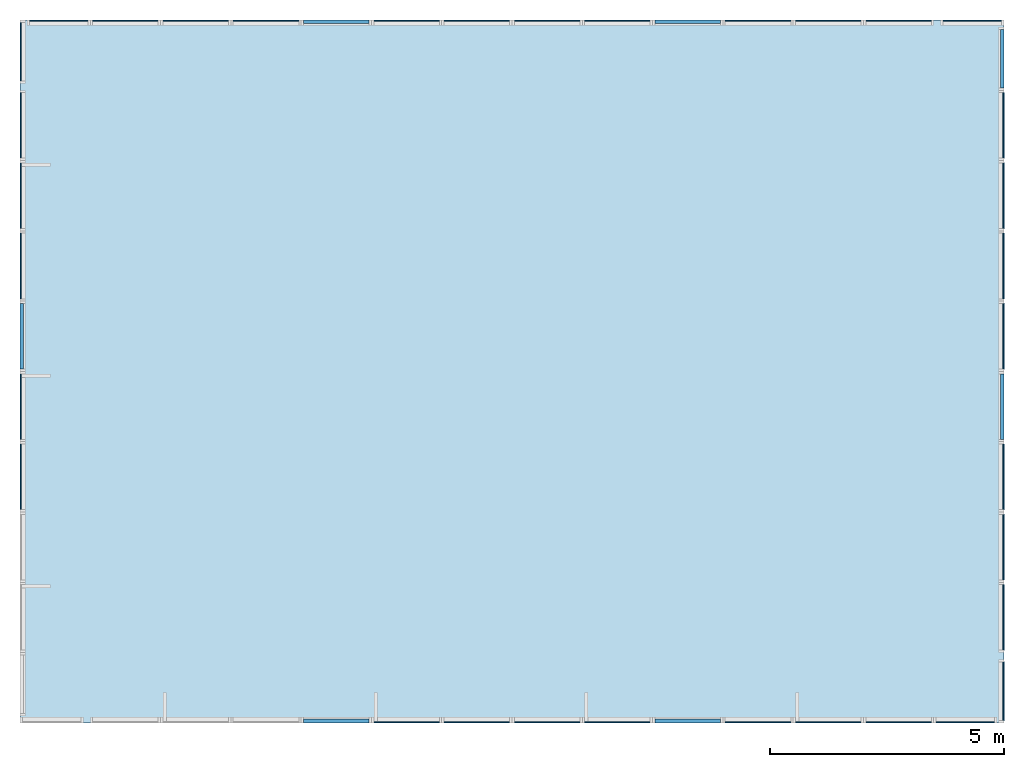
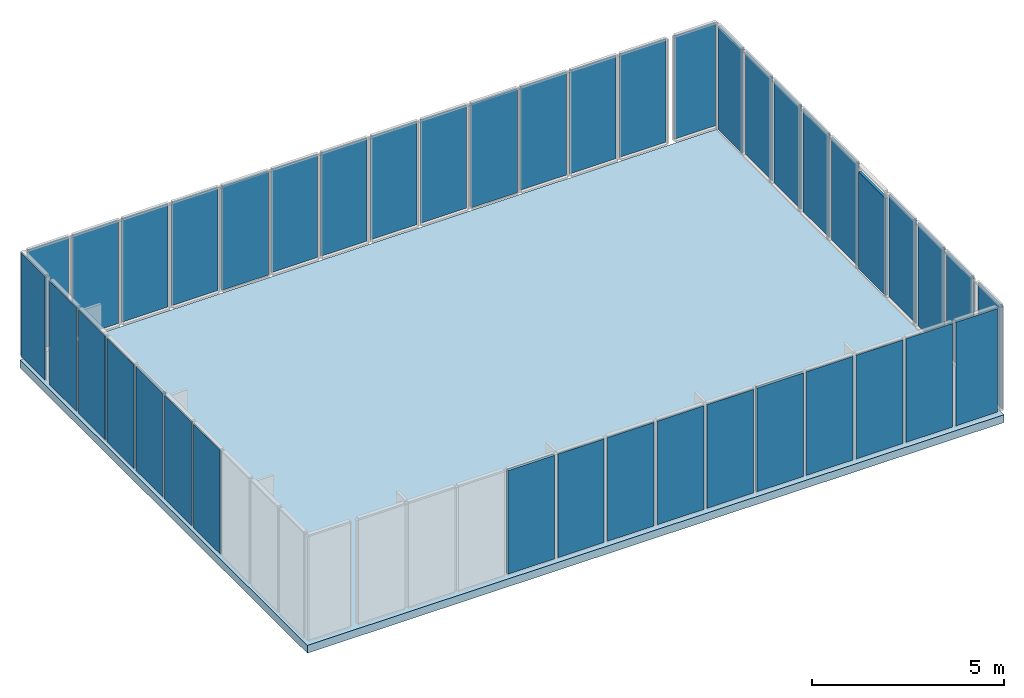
# One storey, part 3 of 3: 41 plates, 1 slab.
"""IFC4 building model written with IfcOpenShell, lengths in metres."""

from ifc_helpers import new_model, si_unit, frame, origin_with_axes, place, context, subcontext, project, spatial, indexed_curve, outline, extrude, material, element, save


model = new_model("IFC4")

# Units and contexts
model_context = context("Model", 3, precision=1e-05, world=origin_with_axes())
body_context = subcontext(model_context, "Body", "Model", "MODEL_VIEW")
ifc_project = project(units=[si_unit("AREAUNIT", "SQUARE_METRE"), si_unit("VOLUMEUNIT", "CUBIC_METRE"), si_unit("LENGTHUNIT", "METRE")], contexts=[model_context])

# Site, building, storey
site = spatial("IfcSite", under=ifc_project, Name="Synthetic Site")
building = spatial("IfcBuilding", under=site, Name="Complex Tower")
storey_placement = place(None, frame((0.0, 0.0, 19.8), z_axis=(0.0, 0.0, 1.0), x_axis=(1.0, 0.0, 0.0)))
storey = spatial("IfcBuildingStorey", under=building, at=storey_placement, Name="L06", Elevation=19.8)

# Plates
ifc_material_1 = material(Name="Aluminium")
plate_1_placement = place(storey_placement, frame((9.05, 1.5, 0.14999999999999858), z_axis=(0.0, 0.0, 1.0), x_axis=(1.0, 0.0, 0.0)))
element("IfcPlate", 1, at=plate_1_placement, inside=storey, material=ifc_material_1, Name="CT-L06-S-005", PredefinedType="SHEET", context=body_context, shape_type="SweptSolid", body=[
    extrude(outline(indexed_curve([(0.0, 0.0), (0.0, 0.08), (1.4, 0.08), (1.4, 0.0), (0.0, 0.0)], self_intersect=False)), origin_with_axes(), (0.0, 0.0, 1.0), 3.3000000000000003),
])
ifc_material_2 = material(Name="Glass")
for number, where, z_axis, x_axis, name in (
    (2, (10.55, 1.5, 0.14999999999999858), (0.0, 0.0, 1.0), (1.0, 0.0, 0.0), "CT-L06-S-006"),
    (3, (12.05, 1.5, 0.14999999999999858), (0.0, 0.0, 1.0), (1.0, 0.0, 0.0), "CT-L06-S-007"),
    (4, (13.55, 1.5, 0.14999999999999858), (0.0, 0.0, 1.0), (1.0, 0.0, 0.0), "CT-L06-S-008"),
    (5, (15.05, 1.5, 0.14999999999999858), (0.0, 0.0, 1.0), (1.0, 0.0, 0.0), "CT-L06-S-009"),
):
    element("IfcPlate", number, at=place(storey_placement, frame(where, z_axis=z_axis, x_axis=x_axis)), inside=storey, material=ifc_material_2, Name=name, PredefinedType="CURTAIN_PANEL", context=body_context, shape_type="SweptSolid", body=[
        extrude(outline(indexed_curve([(0.0, 0.0), (0.0, 0.028), (1.4, 0.028), (1.4, 0.0), (0.0, 0.0)], self_intersect=False)), origin_with_axes(), (0.0, 0.0, 1.0), 3.3000000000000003),
    ])
plate_2_placement = place(storey_placement, frame((16.55, 1.5, 0.14999999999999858), z_axis=(0.0, 0.0, 1.0), x_axis=(1.0, 0.0, 0.0)))
element("IfcPlate", 6, at=plate_2_placement, inside=storey, material=ifc_material_1, Name="CT-L06-S-010", PredefinedType="SHEET", context=body_context, shape_type="SweptSolid", body=[
    extrude(outline(indexed_curve([(0.0, 0.0), (0.0, 0.08), (1.4, 0.08), (1.4, 0.0), (0.0, 0.0)], self_intersect=False)), origin_with_axes(), (0.0, 0.0, 1.0), 3.3000000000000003),
])
for number, where, z_axis, x_axis, name in (
    (7, (18.05, 1.5, 0.14999999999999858), (0.0, 0.0, 1.0), (1.0, 0.0, 0.0), "CT-L06-S-011"),
    (8, (19.55, 1.5, 0.14999999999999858), (0.0, 0.0, 1.0), (1.0, 0.0, 0.0), "CT-L06-S-012"),
    (9, (21.05, 1.5, 0.14999999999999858), (0.0, 0.0, 1.0), (1.0, 0.0, 0.0), "CT-L06-S-013"),
):
    element("IfcPlate", number, at=place(storey_placement, frame(where, z_axis=z_axis, x_axis=x_axis)), inside=storey, material=ifc_material_2, Name=name, PredefinedType="CURTAIN_PANEL", context=body_context, shape_type="SweptSolid", body=[
        extrude(outline(indexed_curve([(0.0, 0.0), (0.0, 0.028), (1.4, 0.028), (1.4, 0.0), (0.0, 0.0)], self_intersect=False)), origin_with_axes(), (0.0, 0.0, 1.0), 3.3000000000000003),
    ])
for number, where, z_axis, x_axis, name in (
    (10, (22.55, 1.5, 0.14999999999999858), (0.0, 0.0, 1.0), (1.0, 0.0, 0.0), "CT-L06-S-014"),
    (11, (24.0, 1.55, 0.14999999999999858), (0.0, 0.0, 1.0), (6.123233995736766e-17, 1.0, 0.0), "CT-L06-E-001"),
):
    element("IfcPlate", number, at=place(storey_placement, frame(where, z_axis=z_axis, x_axis=x_axis)), inside=storey, material=ifc_material_2, Name=name, PredefinedType="CURTAIN_PANEL", context=body_context, shape_type="SweptSolid", body=[
        extrude(outline(indexed_curve([(0.0, 0.0), (0.0, 0.028), (1.25, 0.028), (1.25, 0.0), (0.0, 0.0)], self_intersect=False)), origin_with_axes(), (0.0, 0.0, 1.0), 3.3000000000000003),
    ])
for number, where, z_axis, x_axis, name in (
    (12, (24.0, 3.05, 0.14999999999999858), (0.0, 0.0, 1.0), (6.123233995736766e-17, 1.0, 0.0), "CT-L06-E-002"),
    (13, (24.0, 4.55, 0.14999999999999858), (0.0, 0.0, 1.0), (6.123233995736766e-17, 1.0, 0.0), "CT-L06-E-003"),
    (14, (24.0, 6.05, 0.14999999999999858), (0.0, 0.0, 1.0), (6.123233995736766e-17, 1.0, 0.0), "CT-L06-E-004"),
):
    element("IfcPlate", number, at=place(storey_placement, frame(where, z_axis=z_axis, x_axis=x_axis)), inside=storey, material=ifc_material_2, Name=name, PredefinedType="CURTAIN_PANEL", context=body_context, shape_type="SweptSolid", body=[
        extrude(outline(indexed_curve([(0.0, 0.0), (0.0, 0.028), (1.4, 0.028), (1.4, 0.0), (0.0, 0.0)], self_intersect=False)), origin_with_axes(), (0.0, 0.0, 1.0), 3.3000000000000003),
    ])
plate_3_placement = place(storey_placement, frame((24.0, 7.55, 0.14999999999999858), z_axis=(0.0, 0.0, 1.0), x_axis=(6.123233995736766e-17, 1.0, 0.0)))
element("IfcPlate", 15, at=plate_3_placement, inside=storey, material=ifc_material_1, Name="CT-L06-E-005", PredefinedType="SHEET", context=body_context, shape_type="SweptSolid", body=[
    extrude(outline(indexed_curve([(0.0, 0.0), (0.0, 0.08), (1.4, 0.08), (1.4, 0.0), (0.0, 0.0)], self_intersect=False)), origin_with_axes(), (0.0, 0.0, 1.0), 3.1),
])
for number, where, z_axis, x_axis, name in (
    (16, (24.0, 9.05, 0.14999999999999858), (0.0, 0.0, 1.0), (6.123233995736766e-17, 1.0, 0.0), "CT-L06-E-006"),
    (17, (24.0, 10.55, 0.14999999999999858), (0.0, 0.0, 1.0), (6.123233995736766e-17, 1.0, 0.0), "CT-L06-E-007"),
    (18, (24.0, 12.05, 0.14999999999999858), (0.0, 0.0, 1.0), (6.123233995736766e-17, 1.0, 0.0), "CT-L06-E-008"),
    (19, (24.0, 13.55, 0.14999999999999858), (0.0, 0.0, 1.0), (6.123233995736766e-17, 1.0, 0.0), "CT-L06-E-009"),
):
    element("IfcPlate", number, at=place(storey_placement, frame(where, z_axis=z_axis, x_axis=x_axis)), inside=storey, material=ifc_material_2, Name=name, PredefinedType="CURTAIN_PANEL", context=body_context, shape_type="SweptSolid", body=[
        extrude(outline(indexed_curve([(0.0, 0.0), (0.0, 0.028), (1.4, 0.028), (1.4, 0.0), (0.0, 0.0)], self_intersect=False)), origin_with_axes(), (0.0, 0.0, 1.0), 3.3000000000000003),
    ])
plate_4_placement = place(storey_placement, frame((24.0, 15.05, 0.14999999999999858), z_axis=(0.0, 0.0, 1.0), x_axis=(6.123233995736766e-17, 1.0, 0.0)))
element("IfcPlate", 20, at=plate_4_placement, inside=storey, material=ifc_material_1, Name="CT-L06-E-010", PredefinedType="SHEET", context=body_context, shape_type="SweptSolid", body=[
    extrude(outline(indexed_curve([(0.0, 0.0), (0.0, 0.08), (1.25, 0.08), (1.25, 0.0), (0.0, 0.0)], self_intersect=False)), origin_with_axes(), (0.0, 0.0, 1.0), 3.3000000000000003),
])
plate_5_placement = place(storey_placement, frame((23.95, 16.5, 0.14999999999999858), z_axis=(0.0, 0.0, 1.0), x_axis=(-1.0, 1.2246467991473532e-16, 0.0)))
element("IfcPlate", 21, at=plate_5_placement, inside=storey, material=ifc_material_2, Name="CT-L06-N-001", PredefinedType="CURTAIN_PANEL", context=body_context, shape_type="SweptSolid", body=[
    extrude(outline(indexed_curve([(0.0, 0.0), (0.0, 0.028), (1.25, 0.028), (1.25, 0.0), (0.0, 0.0)], self_intersect=False)), origin_with_axes(), (0.0, 0.0, 1.0), 3.3000000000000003),
])
for number, where, z_axis, x_axis, name in (
    (22, (22.45, 16.5, 0.14999999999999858), (0.0, 0.0, 1.0), (-1.0, 1.2246467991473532e-16, 0.0), "CT-L06-N-002"),
    (23, (20.95, 16.5, 0.14999999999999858), (0.0, 0.0, 1.0), (-1.0, 1.2246467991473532e-16, 0.0), "CT-L06-N-003"),
    (24, (19.45, 16.5, 0.14999999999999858), (0.0, 0.0, 1.0), (-1.0, 1.2246467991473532e-16, 0.0), "CT-L06-N-004"),
):
    element("IfcPlate", number, at=place(storey_placement, frame(where, z_axis=z_axis, x_axis=x_axis)), inside=storey, material=ifc_material_2, Name=name, PredefinedType="CURTAIN_PANEL", context=body_context, shape_type="SweptSolid", body=[
        extrude(outline(indexed_curve([(0.0, 0.0), (0.0, 0.028), (1.4, 0.028), (1.4, 0.0), (0.0, 0.0)], self_intersect=False)), origin_with_axes(), (0.0, 0.0, 1.0), 3.3000000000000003),
    ])
plate_6_placement = place(storey_placement, frame((17.95, 16.5, 0.14999999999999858), z_axis=(0.0, 0.0, 1.0), x_axis=(-1.0, 1.2246467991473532e-16, 0.0)))
element("IfcPlate", 25, at=plate_6_placement, inside=storey, material=ifc_material_1, Name="CT-L06-N-005", PredefinedType="SHEET", context=body_context, shape_type="SweptSolid", body=[
    extrude(outline(indexed_curve([(0.0, 0.0), (0.0, 0.08), (1.4, 0.08), (1.4, 0.0), (0.0, 0.0)], self_intersect=False)), origin_with_axes(), (0.0, 0.0, 1.0), 3.3000000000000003),
])
for number, where, z_axis, x_axis, name in (
    (26, (16.45, 16.5, 0.14999999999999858), (0.0, 0.0, 1.0), (-1.0, 1.2246467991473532e-16, 0.0), "CT-L06-N-006"),
    (27, (14.95, 16.5, 0.14999999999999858), (0.0, 0.0, 1.0), (-1.0, 1.2246467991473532e-16, 0.0), "CT-L06-N-007"),
    (28, (13.45, 16.5, 0.14999999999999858), (0.0, 0.0, 1.0), (-1.0, 1.2246467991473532e-16, 0.0), "CT-L06-N-008"),
    (29, (11.95, 16.5, 0.14999999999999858), (0.0, 0.0, 1.0), (-1.0, 1.2246467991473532e-16, 0.0), "CT-L06-N-009"),
):
    element("IfcPlate", number, at=place(storey_placement, frame(where, z_axis=z_axis, x_axis=x_axis)), inside=storey, material=ifc_material_2, Name=name, PredefinedType="CURTAIN_PANEL", context=body_context, shape_type="SweptSolid", body=[
        extrude(outline(indexed_curve([(0.0, 0.0), (0.0, 0.028), (1.4, 0.028), (1.4, 0.0), (0.0, 0.0)], self_intersect=False)), origin_with_axes(), (0.0, 0.0, 1.0), 3.3000000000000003),
    ])
plate_7_placement = place(storey_placement, frame((10.45, 16.5, 0.14999999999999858), z_axis=(0.0, 0.0, 1.0), x_axis=(-1.0, 1.2246467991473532e-16, 0.0)))
element("IfcPlate", 30, at=plate_7_placement, inside=storey, material=ifc_material_1, Name="CT-L06-N-010", PredefinedType="SHEET", context=body_context, shape_type="SweptSolid", body=[
    extrude(outline(indexed_curve([(0.0, 0.0), (0.0, 0.08), (1.4, 0.08), (1.4, 0.0), (0.0, 0.0)], self_intersect=False)), origin_with_axes(), (0.0, 0.0, 1.0), 3.3000000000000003),
])
for number, where, z_axis, x_axis, name in (
    (31, (8.95, 16.500000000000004, 0.14999999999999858), (0.0, 0.0, 1.0), (-1.0, 1.2246467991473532e-16, 0.0), "CT-L06-N-011"),
    (32, (7.449999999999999, 16.500000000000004, 0.14999999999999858), (0.0, 0.0, 1.0), (-1.0, 1.2246467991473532e-16, 0.0), "CT-L06-N-012"),
    (33, (5.949999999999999, 16.500000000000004, 0.14999999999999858), (0.0, 0.0, 1.0), (-1.0, 1.2246467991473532e-16, 0.0), "CT-L06-N-013"),
):
    element("IfcPlate", number, at=place(storey_placement, frame(where, z_axis=z_axis, x_axis=x_axis)), inside=storey, material=ifc_material_2, Name=name, PredefinedType="CURTAIN_PANEL", context=body_context, shape_type="SweptSolid", body=[
        extrude(outline(indexed_curve([(0.0, 0.0), (0.0, 0.028), (1.4, 0.028), (1.4, 0.0), (0.0, 0.0)], self_intersect=False)), origin_with_axes(), (0.0, 0.0, 1.0), 3.3000000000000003),
    ])
for number, where, z_axis, x_axis, name in (
    (34, (4.449999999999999, 16.500000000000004, 0.14999999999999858), (0.0, 0.0, 1.0), (-1.0, 1.2246467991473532e-16, 0.0), "CT-L06-N-014"),
    (35, (3.0, 16.45, 0.14999999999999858), (0.0, 0.0, 1.0), (-1.8369701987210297e-16, -1.0, 0.0), "CT-L06-W-001"),
):
    element("IfcPlate", number, at=place(storey_placement, frame(where, z_axis=z_axis, x_axis=x_axis)), inside=storey, material=ifc_material_2, Name=name, PredefinedType="CURTAIN_PANEL", context=body_context, shape_type="SweptSolid", body=[
        extrude(outline(indexed_curve([(0.0, 0.0), (0.0, 0.028), (1.25, 0.028), (1.25, 0.0), (0.0, 0.0)], self_intersect=False)), origin_with_axes(), (0.0, 0.0, 1.0), 3.3000000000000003),
    ])
for number, where, z_axis, x_axis, name in (
    (36, (2.9999999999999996, 14.95, 0.14999999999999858), (0.0, 0.0, 1.0), (-1.8369701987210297e-16, -1.0, 0.0), "CT-L06-W-002"),
    (37, (2.9999999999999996, 13.45, 0.14999999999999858), (0.0, 0.0, 1.0), (-1.8369701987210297e-16, -1.0, 0.0), "CT-L06-W-003"),
    (38, (2.999999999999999, 11.95, 0.14999999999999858), (0.0, 0.0, 1.0), (-1.8369701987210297e-16, -1.0, 0.0), "CT-L06-W-004"),
):
    element("IfcPlate", number, at=place(storey_placement, frame(where, z_axis=z_axis, x_axis=x_axis)), inside=storey, material=ifc_material_2, Name=name, PredefinedType="CURTAIN_PANEL", context=body_context, shape_type="SweptSolid", body=[
        extrude(outline(indexed_curve([(0.0, 0.0), (0.0, 0.028), (1.4, 0.028), (1.4, 0.0), (0.0, 0.0)], self_intersect=False)), origin_with_axes(), (0.0, 0.0, 1.0), 3.3000000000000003),
    ])
plate_8_placement = place(storey_placement, frame((2.9999999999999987, 10.45, 0.14999999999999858), z_axis=(0.0, 0.0, 1.0), x_axis=(-1.8369701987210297e-16, -1.0, 0.0)))
element("IfcPlate", 39, at=plate_8_placement, inside=storey, material=ifc_material_1, Name="CT-L06-W-005", PredefinedType="SHEET", context=body_context, shape_type="SweptSolid", body=[
    extrude(outline(indexed_curve([(0.0, 0.0), (0.0, 0.08), (1.4, 0.08), (1.4, 0.0), (0.0, 0.0)], self_intersect=False)), origin_with_axes(), (0.0, 0.0, 1.0), 3.3000000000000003),
])
for number, where, z_axis, x_axis, name in (
    (40, (2.9999999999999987, 8.95, 0.14999999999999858), (0.0, 0.0, 1.0), (-1.8369701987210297e-16, -1.0, 0.0), "CT-L06-W-006"),
    (41, (2.9999999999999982, 7.449999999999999, 0.14999999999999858), (0.0, 0.0, 1.0), (-1.8369701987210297e-16, -1.0, 0.0), "CT-L06-W-007"),
):
    element("IfcPlate", number, at=place(storey_placement, frame(where, z_axis=z_axis, x_axis=x_axis)), inside=storey, material=ifc_material_2, Name=name, PredefinedType="CURTAIN_PANEL", context=body_context, shape_type="SweptSolid", body=[
        extrude(outline(indexed_curve([(0.0, 0.0), (0.0, 0.028), (1.4, 0.028), (1.4, 0.0), (0.0, 0.0)], self_intersect=False)), origin_with_axes(), (0.0, 0.0, 1.0), 3.3000000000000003),
    ])

# Slab
ifc_material_3 = material(Name="Concrete")
slab_placement = place(storey_placement, frame((3.0, 1.5, -0.25), z_axis=(0.0, 0.0, 1.0), x_axis=(1.0, 0.0, 0.0)))
element("IfcSlab", 42, at=slab_placement, inside=storey, material=ifc_material_3, Name="CT-SLAB-06", PredefinedType="FLOOR", context=body_context, shape_type="SweptSolid", body=[
    extrude(outline(indexed_curve([(0.0, 0.0), (0.0, 15.0), (21.0, 15.0), (21.0, 0.0), (0.0, 0.0)], self_intersect=False)), origin_with_axes(), (0.0, 0.0, 1.0), 0.25),
])

save(model, "model.ifc")
